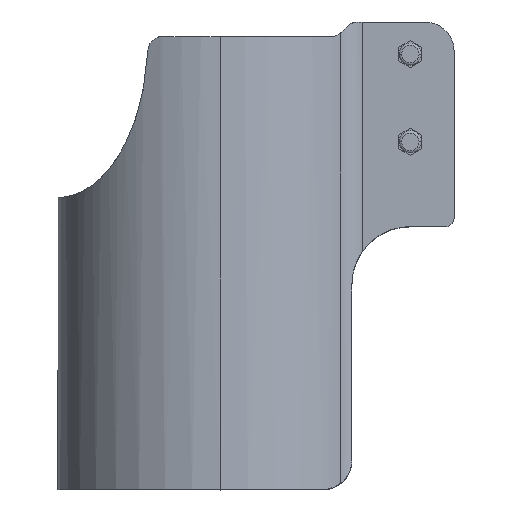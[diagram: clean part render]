
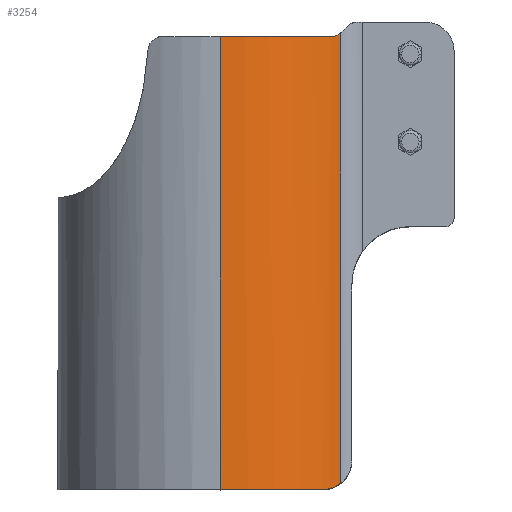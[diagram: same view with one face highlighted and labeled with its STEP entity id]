
A CAD part, top view. The second image highlights one B-rep face of the part: STEP entity #3254.
In plain terms, the highlighted cylindrical face has radius 55.6 mm (diameter 111.2 mm), a partial arc.
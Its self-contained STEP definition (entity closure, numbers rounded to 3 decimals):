
#31 = EDGE_CURVE ( 'NONE', #2840, #3055, #2383, .T. ) ;
#36 = VERTEX_POINT ( 'NONE', #2622 ) ;
#73 = CARTESIAN_POINT ( 'NONE',  ( 40.329, -158.48, 38.28 ) ) ;
#86 = DIRECTION ( 'NONE',  ( 0., 0., 1. ) ) ;
#143 = CARTESIAN_POINT ( 'NONE',  ( 0., -160., 55.6 ) ) ;
#200 = VERTEX_POINT ( 'NONE', #520 ) ;
#342 = CARTESIAN_POINT ( 'NONE',  ( 41.239, -157.815, 37.293 ) ) ;
#495 = CYLINDRICAL_SURFACE ( 'NONE', #3439, 55.6 ) ;
#497 = EDGE_CURVE ( 'NONE', #3342, #1239, #3135, .T. ) ;
#508 = AXIS2_PLACEMENT_3D ( 'NONE', #1057, #2937, #1325 ) ;
#520 = CARTESIAN_POINT ( 'NONE',  ( 37.929, -5., 40.654 ) ) ;
#805 = CARTESIAN_POINT ( 'NONE',  ( 40.229, -4.45, 38.381 ) ) ;
#872 = CARTESIAN_POINT ( 'NONE',  ( 36.152, -159.949, 42.248 ) ) ;
#907 = B_SPLINE_CURVE_WITH_KNOTS ( 'NONE', 3,
 ( #1833, #2220, #872, #2758, #1147, #3030, #1418, #3307, #1687, #73, #1960, #342 ),
 .UNSPECIFIED., .F., .F.,
 ( 4, 2, 2, 2, 2, 4 ),
 ( 0., 0.002, 0.004, 0.006, 0.007, 0.009 ),
 .UNSPECIFIED. ) ;
#983 = CARTESIAN_POINT ( 'NONE',  ( 41.239, -3.748, 37.293 ) ) ;
#1026 = CARTESIAN_POINT ( 'NONE',  ( 0., -160., 0. ) ) ;
#1039 = CARTESIAN_POINT ( 'NONE',  ( 0., -5., 55.6 ) ) ;
#1057 = CARTESIAN_POINT ( 'NONE',  ( 0., -5., 0. ) ) ;
#1074 = VECTOR ( 'NONE', #3022, 1000. ) ;
#1084 = CARTESIAN_POINT ( 'NONE',  ( 39.118, -4.893, 39.519 ) ) ;
#1107 = CIRCLE ( 'NONE', #508, 55.6 ) ;
#1147 = CARTESIAN_POINT ( 'NONE',  ( 37.798, -159.617, 40.782 ) ) ;
#1167 = B_SPLINE_CURVE_WITH_KNOTS ( 'NONE', 3,
 ( #3498, #1330, #2411, #805, #2684, #1084, #2960, #1345 ),
 .UNSPECIFIED., .F., .F.,
 ( 4, 2, 2, 4 ),
 ( 0., 0.001, 0.002, 0.005 ),
 .UNSPECIFIED. ) ;
#1239 = VERTEX_POINT ( 'NONE', #1039 ) ;
#1275 = EDGE_CURVE ( 'NONE', #200, #1239, #1107, .T. ) ;
#1288 = DIRECTION ( 'NONE',  ( 0., 0., 1. ) ) ;
#1325 = DIRECTION ( 'NONE',  ( 0., 0., 1. ) ) ;
#1330 = CARTESIAN_POINT ( 'NONE',  ( 40.999, -3.959, 37.557 ) ) ;
#1345 = CARTESIAN_POINT ( 'NONE',  ( 37.929, -5., 40.654 ) ) ;
#1412 = CARTESIAN_POINT ( 'NONE',  ( 0., -160., 55.6 ) ) ;
#1418 = CARTESIAN_POINT ( 'NONE',  ( 38.845, -159.235, 39.781 ) ) ;
#1552 = CARTESIAN_POINT ( 'NONE',  ( 41.239, -160., 37.293 ) ) ;
#1687 = CARTESIAN_POINT ( 'NONE',  ( 39.601, -158.883, 39.029 ) ) ;
#1810 = DIRECTION ( 'NONE',  ( 0., 1., 0. ) ) ;
#1833 = CARTESIAN_POINT ( 'NONE',  ( 35., -160., 43.201 ) ) ;
#1913 = AXIS2_PLACEMENT_3D ( 'NONE', #1026, #2902, #1288 ) ;
#1929 = FACE_OUTER_BOUND ( 'NONE', #2184, .T. ) ;
#1960 = CARTESIAN_POINT ( 'NONE',  ( 40.794, -158.17, 37.784 ) ) ;
#2071 = ORIENTED_EDGE ( 'NONE', *, *, #1275, .T. ) ;
#2184 = EDGE_LOOP ( 'NONE', ( #2243, #3341, #3126, #2710, #2288, #2071 ) ) ;
#2220 = CARTESIAN_POINT ( 'NONE',  ( 35.584, -160., 42.728 ) ) ;
#2242 = CARTESIAN_POINT ( 'NONE',  ( 0., -160., 0. ) ) ;
#2243 = ORIENTED_EDGE ( 'NONE', *, *, #497, .F. ) ;
#2245 = EDGE_CURVE ( 'NONE', #3055, #200, #1167, .T. ) ;
#2288 = ORIENTED_EDGE ( 'NONE', *, *, #2245, .T. ) ;
#2383 = LINE ( 'NONE', #1552, #2768 ) ;
#2411 = CARTESIAN_POINT ( 'NONE',  ( 40.749, -4.14, 37.829 ) ) ;
#2610 = CARTESIAN_POINT ( 'NONE',  ( 41.239, -157.815, 37.293 ) ) ;
#2622 = CARTESIAN_POINT ( 'NONE',  ( 35., -160., 43.201 ) ) ;
#2684 = CARTESIAN_POINT ( 'NONE',  ( 39.959, -4.579, 38.663 ) ) ;
#2710 = ORIENTED_EDGE ( 'NONE', *, *, #31, .T. ) ;
#2758 = CARTESIAN_POINT ( 'NONE',  ( 37.259, -159.758, 41.275 ) ) ;
#2768 = VECTOR ( 'NONE', #1810, 1000. ) ;
#2782 = DIRECTION ( 'NONE',  ( 0., 1., 0. ) ) ;
#2840 = VERTEX_POINT ( 'NONE', #2610 ) ;
#2856 = CIRCLE ( 'NONE', #1913, 55.6 ) ;
#2902 = DIRECTION ( 'NONE',  ( 0., 1., 0. ) ) ;
#2937 = DIRECTION ( 'NONE',  ( 0., -1., 0. ) ) ;
#2960 = CARTESIAN_POINT ( 'NONE',  ( 38.534, -5., 40.089 ) ) ;
#3022 = DIRECTION ( 'NONE',  ( 0., 1., 0. ) ) ;
#3030 = CARTESIAN_POINT ( 'NONE',  ( 38.586, -159.339, 40.033 ) ) ;
#3055 = VERTEX_POINT ( 'NONE', #983 ) ;
#3126 = ORIENTED_EDGE ( 'NONE', *, *, #3219, .T. ) ;
#3135 = LINE ( 'NONE', #1412, #1074 ) ;
#3219 = EDGE_CURVE ( 'NONE', #36, #2840, #907, .T. ) ;
#3254 = ADVANCED_FACE ( 'NONE', ( #1929 ), #495, .T. ) ;
#3307 = CARTESIAN_POINT ( 'NONE',  ( 39.353, -159.007, 39.279 ) ) ;
#3341 = ORIENTED_EDGE ( 'NONE', *, *, #3466, .T. ) ;
#3342 = VERTEX_POINT ( 'NONE', #143 ) ;
#3439 = AXIS2_PLACEMENT_3D ( 'NONE', #2242, #2782, #86 ) ;
#3466 = EDGE_CURVE ( 'NONE', #3342, #36, #2856, .T. ) ;
#3498 = CARTESIAN_POINT ( 'NONE',  ( 41.239, -3.748, 37.293 ) ) ;
